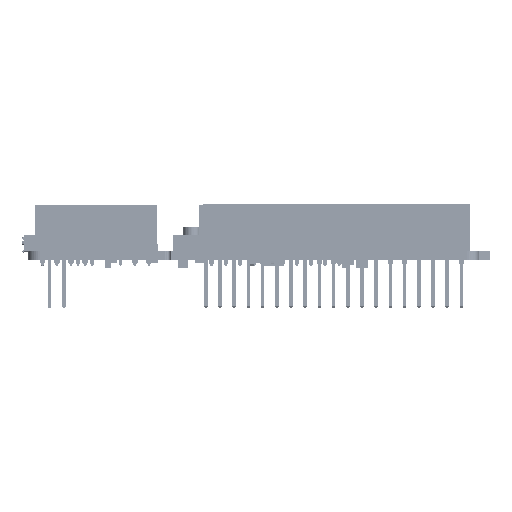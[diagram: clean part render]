
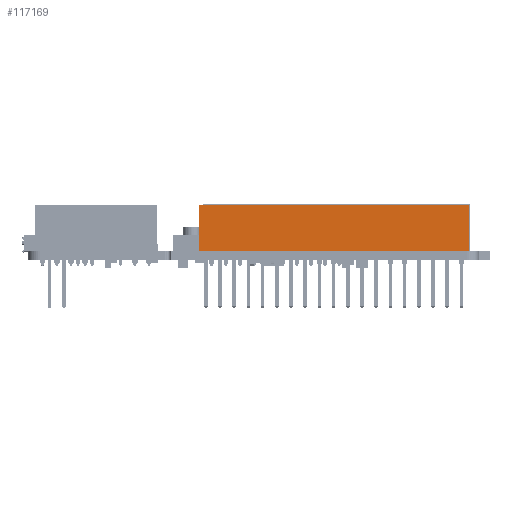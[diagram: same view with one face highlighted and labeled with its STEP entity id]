
A CAD part, left-side view. The second image highlights one B-rep face of the part: STEP entity #117169.
In plain terms, the highlighted planar face has unit normal (-1, 0, 0).
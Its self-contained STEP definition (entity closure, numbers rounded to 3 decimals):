
#117071 = EDGE_CURVE('',#117072,#117074,#117076,.T.);
#117072 = VERTEX_POINT('',#117073);
#117073 = CARTESIAN_POINT('',(-2.545,24.132,0.));
#117074 = VERTEX_POINT('',#117075);
#117075 = CARTESIAN_POINT('',(-2.545,24.132,8.38));
#117076 = LINE('',#117077,#117078);
#117077 = CARTESIAN_POINT('',(-2.545,24.132,0.));
#117078 = VECTOR('',#117079,1.);
#117079 = DIRECTION('',(0.,0.,1.));
#117144 = VERTEX_POINT('',#117145);
#117145 = CARTESIAN_POINT('',(-2.545,-24.132,8.38));
#117151 = EDGE_CURVE('',#117152,#117144,#117154,.T.);
#117152 = VERTEX_POINT('',#117153);
#117153 = CARTESIAN_POINT('',(-2.545,-24.132,0.));
#117154 = LINE('',#117155,#117156);
#117155 = CARTESIAN_POINT('',(-2.545,-24.132,0.));
#117156 = VECTOR('',#117157,1.);
#117157 = DIRECTION('',(0.,0.,1.));
#117169 = ADVANCED_FACE('',(#117170),#117186,.T.);
#117170 = FACE_BOUND('',#117171,.T.);
#117171 = EDGE_LOOP('',(#117172,#117173,#117179,#117180));
#117172 = ORIENTED_EDGE('',*,*,#117151,.T.);
#117173 = ORIENTED_EDGE('',*,*,#117174,.T.);
#117174 = EDGE_CURVE('',#117144,#117074,#117175,.T.);
#117175 = LINE('',#117176,#117177);
#117176 = CARTESIAN_POINT('',(-2.545,-24.132,8.38));
#117177 = VECTOR('',#117178,1.);
#117178 = DIRECTION('',(0.,1.,0.));
#117179 = ORIENTED_EDGE('',*,*,#117071,.F.);
#117180 = ORIENTED_EDGE('',*,*,#117181,.F.);
#117181 = EDGE_CURVE('',#117152,#117072,#117182,.T.);
#117182 = LINE('',#117183,#117184);
#117183 = CARTESIAN_POINT('',(-2.545,-24.132,0.));
#117184 = VECTOR('',#117185,1.);
#117185 = DIRECTION('',(0.,1.,0.));
#117186 = PLANE('',#117187);
#117187 = AXIS2_PLACEMENT_3D('',#117188,#117189,#117190);
#117188 = CARTESIAN_POINT('',(-2.545,-24.132,0.));
#117189 = DIRECTION('',(-1.,0.,0.));
#117190 = DIRECTION('',(0.,1.,0.));
